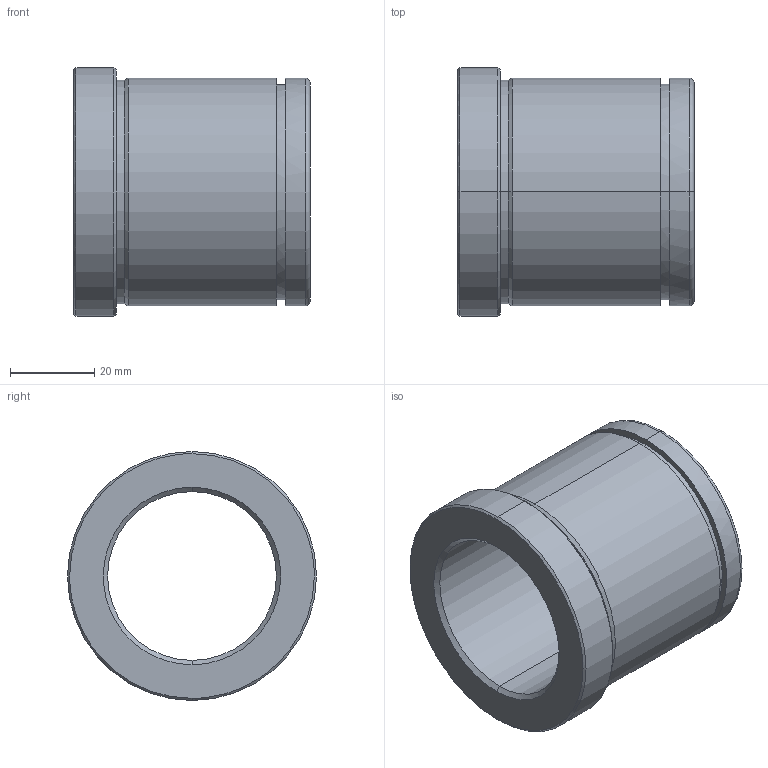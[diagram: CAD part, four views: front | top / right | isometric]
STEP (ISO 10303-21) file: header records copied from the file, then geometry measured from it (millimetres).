
FILE_DESCRIPTION(('CATIA V5 STEP Exchange'),'2;1');
FILE_NAME('C:\Users\Utente\Desktop\IO LAVORO\3D X SITO CF\X SITO\PLASTICA\553\553-40X56.stp','2021-06-03T18:31:11+00:00',('none'),('none'),'CATIA Version 5 Release 20 GA (IN-10)','CATIA V5 STEP AP203','none');
FILE_SCHEMA(('CONFIG_CONTROL_DESIGN'));
Length unit declared in the file: millimetre
Products named in the file (1): 553-40X56
Bounding box: 56 x 59 x 59 mm (x, y, z)
Volume: 61246.5 mm3; surface area: 19820.9 mm2
Topology: 1 solids, 1 shells, 29 faces, 92 edges, 68 vertices
Faces by surface type: cylinder 12, cone 8, plane 5, torus 4
Entity records: 1222 total; most frequent: CARTESIAN_POINT 368, ORIENTED_EDGE 184, DIRECTION 136, EDGE_CURVE 92, AXIS2_PLACEMENT_3D 88, VERTEX_POINT 68, CIRCLE 58, EDGE_LOOP 34
